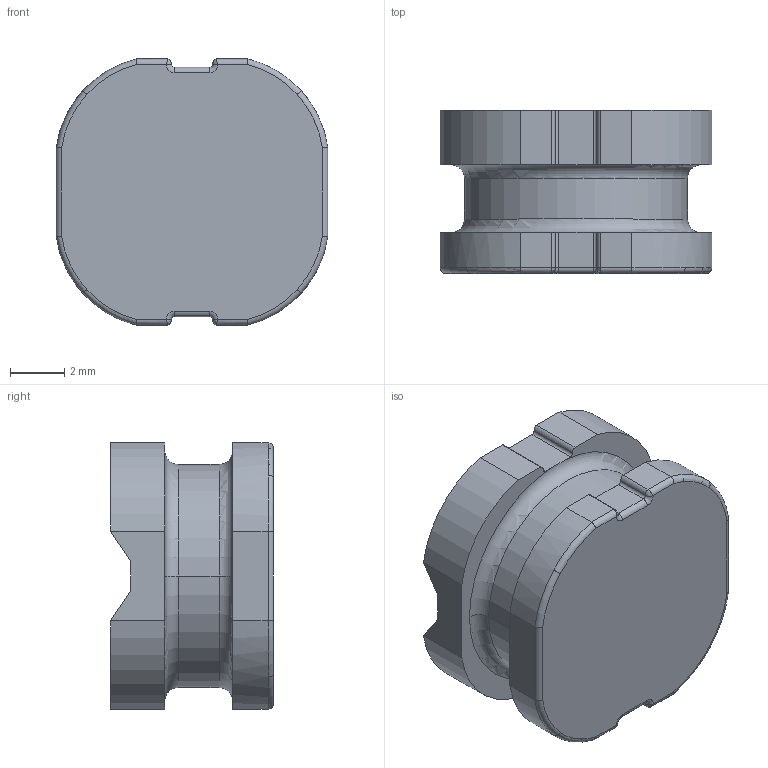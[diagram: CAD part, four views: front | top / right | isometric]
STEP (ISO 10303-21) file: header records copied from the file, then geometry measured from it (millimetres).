
FILE_DESCRIPTION(('STEP AP214'),'1');
FILE_NAME('C:/Program Files (x86)/Trace Software/PartsXML Tools/RobotPartsAuto/RS_COMPONENTS/CAD/Temp/69760.stp','2016-07-13T19:08:36',('TraceParts'),('TraceParts S.A.'),'Spatial InterOp 3D',' ',' ');
FILE_SCHEMA(('automotive_design'));
Length unit declared in the file: millimetre
Products named in the file (1): SRN1060
Bounding box: 10 x 6 x 9.8 mm (x, y, z)
Volume: 419.1 mm3; surface area: 409 mm2
Topology: 1 solids, 1 shells, 83 faces, 214 edges, 132 vertices
Faces by surface type: cylinder 34, plane 26, torus 19, bspline 4
Entity records: 2747 total; most frequent: CARTESIAN_POINT 700, DIRECTION 446, ORIENTED_EDGE 426, EDGE_CURVE 213, AXIS2_PLACEMENT_3D 176, VERTEX_POINT 132, CIRCLE 96, LINE 94
